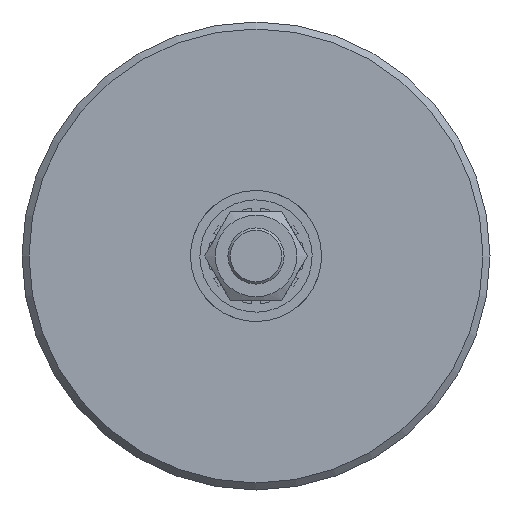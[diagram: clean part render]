
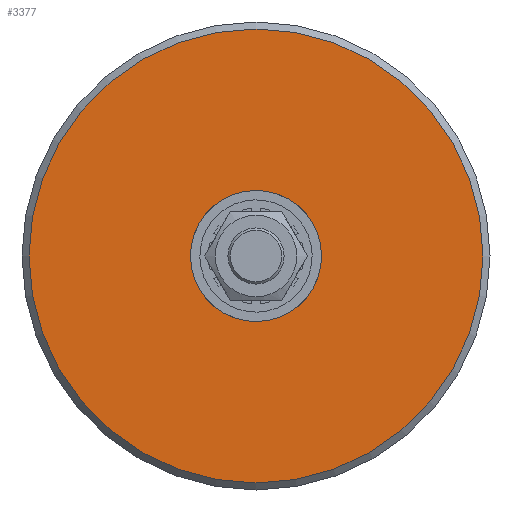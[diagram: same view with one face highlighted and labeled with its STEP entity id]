
A CAD part, left-side view. The second image highlights one B-rep face of the part: STEP entity #3377.
In plain terms, the highlighted planar face has unit normal (-1, 0, 0).
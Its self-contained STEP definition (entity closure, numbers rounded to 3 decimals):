
#691=FACE_BOUND('',#979,.T.);
#779=FACE_OUTER_BOUND('',#978,.T.);
#978=EDGE_LOOP('',(#2336));
#979=EDGE_LOOP('',(#2337));
#1265=CIRCLE('',#3594,48.5);
#1266=CIRCLE('',#3595,12.75);
#1501=VERTEX_POINT('',#5183);
#1502=VERTEX_POINT('',#5185);
#1849=EDGE_CURVE('',#1501,#1501,#1265,.T.);
#1850=EDGE_CURVE('',#1502,#1502,#1266,.T.);
#2336=ORIENTED_EDGE('',*,*,#1849,.F.);
#2337=ORIENTED_EDGE('',*,*,#1850,.T.);
#3310=PLANE('',#3593);
#3377=ADVANCED_FACE('',(#779,#691),#3310,.T.);
#3593=AXIS2_PLACEMENT_3D('',#5182,#4063,#4064);
#3594=AXIS2_PLACEMENT_3D('',#5184,#4065,#4066);
#3595=AXIS2_PLACEMENT_3D('',#5186,#4067,#4068);
#4063=DIRECTION('center_axis',(-1.,0.,0.));
#4064=DIRECTION('ref_axis',(0.,0.,1.));
#4065=DIRECTION('center_axis',(1.,0.,0.));
#4066=DIRECTION('ref_axis',(0.,1.,0.));
#4067=DIRECTION('center_axis',(1.,0.,0.));
#4068=DIRECTION('ref_axis',(0.,1.,0.));
#5182=CARTESIAN_POINT('Origin',(-15.,30.625,0.));
#5183=CARTESIAN_POINT('',(-15.,48.5,0.));
#5184=CARTESIAN_POINT('Origin',(-15.,0.,0.));
#5185=CARTESIAN_POINT('',(-15.,12.75,0.));
#5186=CARTESIAN_POINT('Origin',(-15.,0.,0.));
